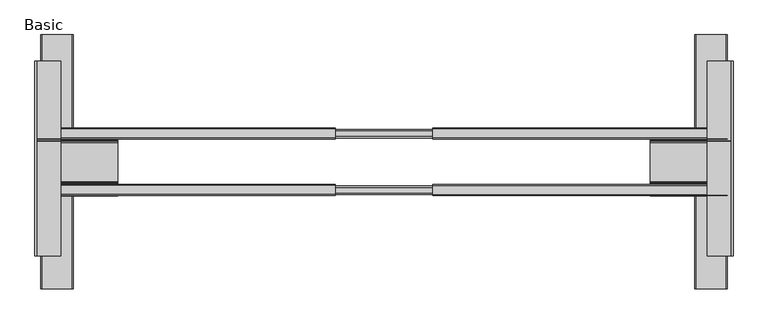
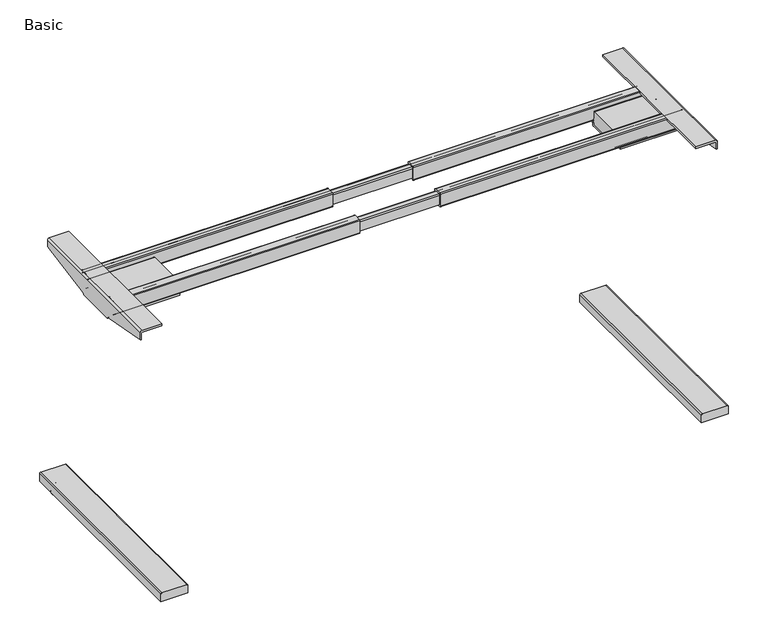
"""IFC4 building model written with IfcOpenShell, lengths in millimetres: furniture geometry, Steelcase Turnstone - Bivi - T Base : Basic."""

from ifc_helpers import new_model, si_unit, point, frame, frame_2d, origin, place, context, project, spatial, polyline, circle_curve, ellipse_curve, trimmed, segment, composite_curve, outline, extrude, source, transform, mapped, element, save
from ifc_brep_helpers import plane_surface, cylinder_surface, revolved_surface, advanced_brep


def basic_6e81f7dd(model_context):
    return source(origin(), model_context, "Body", "SolidModel", [
        advanced_brep(
        [(579.6197971, 171.9471628, 0.0), (579.6197971, 111.031484, 0.0), (579.6197971, 141.4893234, 0.0), (579.6197971, 173.9813657, 2.034203), (579.6197971, 108.997281, 2.034203), (579.6197971, 173.9813657, 5.0424709), (579.6197971, 108.997281, 5.0424709), (579.6197971, 171.9620755, 7.0617612), (579.6197971, 111.0165712, 7.0617612), (579.6197971, 149.0390808, 9.288914), (579.6197971, 133.9395659, 9.288914), (579.6197971, 141.4893234, 9.288914)],
        [
            (0, 1, circle_curve(frame((579.6197971, 141.4893234, 0.0), z_axis=(0.0, 0.0, -1.0), x_axis=(0.0, -1.0, 0.0)), 30.4578394)),
            (1, 2),
            (2, 0),
            (1, 0, circle_curve(frame((579.6197971, 141.4893234, 0.0), z_axis=(0.0, 0.0, -1.0), x_axis=(0.0, -1.0, 0.0)), 30.4578394)),
            (3, 4, circle_curve(frame((579.6197971, 141.4893234, 2.034203), z_axis=(0.0, 0.0, -1.0), x_axis=(0.0, -1.0, 0.0)), 32.4920424)),
            (4, 1, circle_curve(frame((579.6197971, 111.031484, 2.034203), z_axis=(1.0, 0.0, 0.0), x_axis=(0.0, 1.0, 0.0)), 2.034203)),
            (0, 3, circle_curve(frame((579.6197971, 171.9471628, 2.034203), z_axis=(1.0, 0.0, 0.0), x_axis=(0.0, -1.0, 0.0)), 2.034203)),
            (4, 3, circle_curve(frame((579.6197971, 141.4893234, 2.034203), z_axis=(0.0, 0.0, -1.0), x_axis=(0.0, -1.0, 0.0)), 32.4920424)),
            (5, 6, circle_curve(frame((579.6197971, 141.4893234, 5.0424709), z_axis=(0.0, 0.0, -1.0), x_axis=(0.0, -1.0, 0.0)), 32.4920424)),
            (6, 4),
            (3, 5),
            (6, 5, circle_curve(frame((579.6197971, 141.4893234, 5.0424709), z_axis=(0.0, 0.0, -1.0), x_axis=(0.0, -1.0, 0.0)), 32.4920424)),
            (7, 8, circle_curve(frame((579.6197971, 141.4893234, 7.0617612), z_axis=(0.0, 0.0, -1.0), x_axis=(0.0, -1.0, 0.0)), 30.4727521)),
            (8, 6, circle_curve(frame((579.6197971, 111.0165712, 5.0424709), z_axis=(1.0, 0.0, 0.0), x_axis=(0.0, 1.0, 0.0)), 2.0192902)),
            (5, 7, circle_curve(frame((579.6197971, 171.9620755, 5.0424709), z_axis=(1.0, 0.0, 0.0), x_axis=(0.0, -1.0, 0.0)), 2.0192902)),
            (8, 7, circle_curve(frame((579.6197971, 141.4893234, 7.0617612), z_axis=(0.0, 0.0, -1.0), x_axis=(0.0, -1.0, 0.0)), 30.4727521)),
            (9, 10, circle_curve(frame((579.6197971, 141.4893234, 9.288914), z_axis=(0.0, 0.0, -1.0), x_axis=(0.0, -1.0, 0.0)), 7.5497574)),
            (10, 8),
            (7, 9),
            (10, 9, circle_curve(frame((579.6197971, 141.4893234, 9.288914), z_axis=(0.0, 0.0, -1.0), x_axis=(0.0, -1.0, 0.0)), 7.5497574)),
            (11, 10),
            (9, 11),
        ],
        [
            plane_surface(frame((579.6197971, 141.4893234, 0.0), z_axis=(0.0, 0.0, -1.0), x_axis=(0.0, -1.0, 0.0))),
            revolved_surface(trimmed(ellipse_curve(frame((579.6197971, 111.031484, 2.034203), z_axis=(-1.0, 0.0, 0.0), x_axis=(0.0, 1.0, 0.0)), 2.034203, 2.034203), [point((579.6197971, 111.031484, 0.0))], [point((579.6197971, 108.997281, 2.034203))], True, "CARTESIAN"), (579.6197971, 141.4893234, 13.4607192), (0.0, 0.0, 1.0)),
            cylinder_surface(frame((579.6197971, 141.4893234, 13.4607192), z_axis=(0.0, 0.0, 1.0), x_axis=(0.0, -1.0, 0.0)), 32.4920424),
            revolved_surface(trimmed(ellipse_curve(frame((579.6197971, 111.0165712, 5.0424709), z_axis=(-1.0, 0.0, 0.0), x_axis=(0.0, 1.0, 0.0)), 2.0192902, 2.0192902), [point((579.6197971, 108.997281, 5.0424709))], [point((579.6197971, 111.0165712, 7.0617612))], True, "CARTESIAN"), (579.6197971, 141.4893234, 13.4607192), (0.0, 0.0, 1.0)),
            revolved_surface(polyline([(579.6197971, 111.0165712, 7.0617612), (579.6197971, 133.9395659, 9.288914)]), (579.6197971, 141.4893234, 13.4607192), (0.0, 0.0, 1.0)),
            plane_surface(frame((579.6197971, 141.4893234, 9.288914), z_axis=(0.0, 0.0, 1.0), x_axis=(0.0, -1.0, 0.0))),
        ],
        [
            (0, [[1, 2, 3]]),
            (0, [[4, -3, -2]]),
            (1, [[5, 6, -1, 7]]),
            (1, [[8, -7, -4, -6]]),
            (2, [[9, 10, -5, 11]]),
            (2, [[12, -11, -8, -10]]),
            (3, [[13, 14, -9, 15]]),
            (3, [[16, -15, -12, -14]]),
            (4, [[17, 18, -13, 19]]),
            (4, [[20, -19, -16, -18]]),
            (5, [[21, -17, 22]]),
            (5, [[-22, -20, -21]]),
        ],
    ),
        advanced_brep(
        [(-924.0602029, -367.0453334, 0.0), (-924.0602029, -306.1296546, 0.0), (-924.0602029, -336.587494, 0.0), (-924.0602029, -369.0795363, 2.034203), (-924.0602029, -304.0954516, 2.034203), (-924.0602029, -369.0795363, 5.0424709), (-924.0602029, -304.0954516, 5.0424709), (-924.0602029, -367.0602461, 7.0617612), (-924.0602029, -306.1147418, 7.0617612), (-924.0602029, -344.1372514, 9.288914), (-924.0602029, -329.0377365, 9.288914), (-924.0602029, -336.587494, 9.288914)],
        [
            (0, 1, circle_curve(frame((-924.0602029, -336.587494, 0.0), z_axis=(0.0, 0.0, -1.0), x_axis=(0.0, 1.0, 0.0)), 30.4578394)),
            (1, 2),
            (2, 0),
            (1, 0, circle_curve(frame((-924.0602029, -336.587494, 0.0), z_axis=(0.0, 0.0, -1.0), x_axis=(0.0, 1.0, 0.0)), 30.4578394)),
            (3, 4, circle_curve(frame((-924.0602029, -336.587494, 2.034203), z_axis=(0.0, 0.0, -1.0), x_axis=(0.0, 1.0, 0.0)), 32.4920424)),
            (4, 1, circle_curve(frame((-924.0602029, -306.1296546, 2.034203), z_axis=(-1.0, 0.0, 0.0), x_axis=(0.0, 1.0, 0.0)), 2.034203)),
            (0, 3, circle_curve(frame((-924.0602029, -367.0453334, 2.034203), z_axis=(-1.0, 0.0, 0.0), x_axis=(0.0, -1.0, 0.0)), 2.034203)),
            (4, 3, circle_curve(frame((-924.0602029, -336.587494, 2.034203), z_axis=(0.0, 0.0, -1.0), x_axis=(0.0, 1.0, 0.0)), 32.4920424)),
            (5, 6, circle_curve(frame((-924.0602029, -336.587494, 5.0424709), z_axis=(0.0, 0.0, -1.0), x_axis=(0.0, 1.0, 0.0)), 32.4920424)),
            (6, 4),
            (3, 5),
            (6, 5, circle_curve(frame((-924.0602029, -336.587494, 5.0424709), z_axis=(0.0, 0.0, -1.0), x_axis=(0.0, 1.0, 0.0)), 32.4920424)),
            (7, 8, circle_curve(frame((-924.0602029, -336.587494, 7.0617612), z_axis=(0.0, 0.0, -1.0), x_axis=(0.0, 1.0, 0.0)), 30.4727521)),
            (8, 6, circle_curve(frame((-924.0602029, -306.1147418, 5.0424709), z_axis=(-1.0, 0.0, 0.0), x_axis=(0.0, 1.0, 0.0)), 2.0192902)),
            (5, 7, circle_curve(frame((-924.0602029, -367.0602461, 5.0424709), z_axis=(-1.0, 0.0, 0.0), x_axis=(0.0, -1.0, 0.0)), 2.0192902)),
            (8, 7, circle_curve(frame((-924.0602029, -336.587494, 7.0617612), z_axis=(0.0, 0.0, -1.0), x_axis=(0.0, 1.0, 0.0)), 30.4727521)),
            (9, 10, circle_curve(frame((-924.0602029, -336.587494, 9.288914), z_axis=(0.0, 0.0, -1.0), x_axis=(0.0, 1.0, 0.0)), 7.5497574)),
            (10, 8),
            (7, 9),
            (10, 9, circle_curve(frame((-924.0602029, -336.587494, 9.288914), z_axis=(0.0, 0.0, -1.0), x_axis=(0.0, 1.0, 0.0)), 7.5497574)),
            (11, 10),
            (9, 11),
        ],
        [
            plane_surface(frame((-924.0602029, -336.587494, 0.0), z_axis=(0.0, 0.0, -1.0), x_axis=(0.0, 1.0, 0.0))),
            revolved_surface(trimmed(ellipse_curve(frame((-924.0602029, -306.1296546, 2.034203), z_axis=(1.0, 0.0, 0.0), x_axis=(0.0, 1.0, 0.0)), 2.034203, 2.034203), [point((-924.0602029, -306.1296546, 0.0))], [point((-924.0602029, -304.0954516, 2.034203))], True, "CARTESIAN"), (-924.0602029, -336.587494, 13.4607192), (0.0, 0.0, 1.0)),
            cylinder_surface(frame((-924.0602029, -336.587494, 13.4607192), z_axis=(0.0, 0.0, 1.0), x_axis=(0.0, 1.0, 0.0)), 32.4920424),
            revolved_surface(trimmed(ellipse_curve(frame((-924.0602029, -306.1147418, 5.0424709), z_axis=(1.0, 0.0, 0.0), x_axis=(0.0, 1.0, 0.0)), 2.0192902, 2.0192902), [point((-924.0602029, -304.0954516, 5.0424709))], [point((-924.0602029, -306.1147418, 7.0617612))], True, "CARTESIAN"), (-924.0602029, -336.587494, 13.4607192), (0.0, 0.0, 1.0)),
            revolved_surface(polyline([(-924.0602029, -306.1147418, 7.0617612), (-924.0602029, -329.0377365, 9.288914)]), (-924.0602029, -336.587494, 13.4607192), (0.0, 0.0, 1.0)),
            plane_surface(frame((-924.0602029, -336.587494, 9.288914), z_axis=(0.0, 0.0, 1.0), x_axis=(0.0, 1.0, 0.0))),
        ],
        [
            (0, [[1, 2, 3]]),
            (0, [[4, -3, -2]]),
            (1, [[5, 6, -1, 7]]),
            (1, [[8, -7, -4, -6]]),
            (2, [[9, 10, -5, 11]]),
            (2, [[12, -11, -8, -10]]),
            (3, [[13, 14, -9, 15]]),
            (3, [[16, -15, -12, -14]]),
            (4, [[17, 18, -13, 19]]),
            (4, [[20, -19, -16, -18]]),
            (5, [[21, -17, 22]]),
            (5, [[-22, -20, -21]]),
        ],
    ),
        advanced_brep(
        [(626.8774973, -158.2325705, 706.7459466), (629.3911807, -158.2325705, 706.7459466), (629.3911807, -313.1690409, 735.4690634), (626.8774973, -313.1690409, 735.4690634), (626.8774973, -154.5901123, 703.1034885), (629.3911807, -154.5901123, 703.1034885), (626.8774973, -37.2242924, 706.7459466), (629.3911807, -37.2242924, 706.7459466), (629.3911807, -40.8667505, 703.1034885), (626.8774973, -40.8667505, 703.1034885), (626.8774973, 133.8680014, 738.4641336), (629.3911807, 133.8680014, 738.4641336), (629.3911807, -313.1690409, 757.1424174), (624.1335981, -313.1690409, 762.4), (569.7244146, -313.1690409, 762.4), (569.7244146, -313.1690409, 756.3136941), (624.1335981, -313.1690409, 756.3136941), (626.8774973, -313.1690409, 753.5697948), (626.8774973, 133.8680014, 753.5697948), (624.1335981, 133.8680014, 756.3136941), (569.7244146, 133.8680014, 756.3136941), (569.7244146, 133.8680014, 762.4), (624.1335981, 133.8680014, 762.4), (629.3911807, 133.8680014, 757.1424174)],
        [
            (0, 1),
            (1, 2),
            (2, 3),
            (3, 0),
            (0, 4),
            (4, 5),
            (5, 1),
            (6, 7),
            (7, 8),
            (8, 9),
            (9, 6),
            (6, 10),
            (10, 11),
            (11, 7),
            (12, 13, circle_curve(frame((624.1335981, -313.1690409, 757.1424174), z_axis=(0.0, -1.0, 0.0), x_axis=(-1.0, 0.0, 0.0)), 5.2575826)),
            (13, 14),
            (14, 15),
            (15, 16),
            (16, 17, circle_curve(frame((624.1335981, -313.1690409, 753.5697948), z_axis=(0.0, 1.0, 0.0), x_axis=(-1.0, 0.0, 0.0)), 2.7438992)),
            (17, 3),
            (2, 12),
            (18, 19, circle_curve(frame((624.1335981, 133.8680014, 753.5697948), z_axis=(0.0, -1.0, 0.0), x_axis=(-1.0, 0.0, 0.0)), 2.7438992)),
            (19, 20),
            (20, 21),
            (21, 22),
            (22, 23, circle_curve(frame((624.1335981, 133.8680014, 757.1424174), z_axis=(0.0, 1.0, 0.0), x_axis=(-1.0, 0.0, 0.0)), 5.2575826)),
            (23, 11),
            (10, 18),
            (17, 18),
            (9, 4),
            (16, 19),
            (15, 20),
            (14, 21),
            (13, 22),
            (12, 23),
            (5, 8),
        ],
        [
            plane_surface(frame((907.5476074, -158.2325705, 706.7459466), z_axis=(0.0, -0.18228055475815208, -0.983246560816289), x_axis=(-1.0, 0.0, 0.0))),
            plane_surface(frame((907.5476074, -152.8866238, 701.4), z_axis=(0.0, -0.7071067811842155, -0.7071067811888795), x_axis=(-1.0, 0.0, 0.0))),
            plane_surface(frame((907.5476074, -37.2242924, 706.7459466), z_axis=(0.0, 0.707106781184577, -0.7071067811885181), x_axis=(-1.0, 0.0, 0.0))),
            plane_surface(frame((907.5476074, 190.3320215, 748.9317958), z_axis=(0.0, 0.18228055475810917, -0.983246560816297), x_axis=(-1.0, 0.0, 0.0))),
            plane_surface(frame((629.3911807, -313.1690409, 703.1034885), z_axis=(0.0, -1.0, 0.0), x_axis=(1.0, 0.0, 0.0))),
            plane_surface(frame((629.3911807, 133.8680014, 703.1034885), z_axis=(0.0, 1.0, 0.0), x_axis=(-1.0, 0.0, 0.0))),
            plane_surface(frame((626.8774973, -313.1690409, 753.5697948), z_axis=(-1.0, 0.0, 0.0), x_axis=(0.0, 1.0, 0.0))),
            revolved_surface(polyline([(621.3896989, 133.8680014, 753.5697948), (621.3896989, -313.1690409, 753.5697948)]), (624.1335981, 133.8680014, 753.5697948), (0.0, 1.0, 0.0)),
            plane_surface(frame((569.7244146, -313.1690409, 756.3136941), z_axis=(1.7091088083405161e-12, 0.0, -1.0), x_axis=(0.0, 1.0, 0.0))),
            plane_surface(frame((569.7244146, -313.1690409, 762.4), z_axis=(-1.0, 0.0, 0.0), x_axis=(0.0, 1.0, 0.0))),
            plane_surface(frame((624.1335981, -313.1690409, 762.4), z_axis=(0.0, 0.0, 1.0), x_axis=(0.0, 1.0, 0.0))),
            cylinder_surface(frame((624.1335981, 133.8680014, 757.1424174), z_axis=(0.0, -1.0, 0.0), x_axis=(-1.0, 0.0, 0.0)), 5.2575826),
            plane_surface(frame((629.3911807, -313.1690409, 703.1034885), z_axis=(1.0, 0.0, 0.0), x_axis=(0.0, 1.0, 0.0))),
            plane_surface(frame((626.8774973, -313.1690409, 703.1034885), z_axis=(0.0, 0.0, -1.0), x_axis=(0.0, 1.0, 0.0))),
        ],
        [
            (0, [[1, 2, 3, 4]]),
            (1, [[-1, 5, 6, 7]]),
            (2, [[8, 9, 10, 11]]),
            (3, [[-8, 12, 13, 14]]),
            (4, [[15, 16, 17, 18, 19, 20, -3, 21]]),
            (5, [[22, 23, 24, 25, 26, 27, -13, 28]]),
            (6, [[29, -28, -12, -11, 30, -5, -4, -20]]),
            (7, [[-19, 31, -22, -29]]),
            (8, [[-18, 32, -23, -31]]),
            (9, [[-17, 33, -24, -32]]),
            (10, [[-16, 34, -25, -33]]),
            (11, [[-15, 35, -26, -34]]),
            (12, [[-35, -21, -2, -7, 36, -9, -14, -27]]),
            (13, [[-36, -6, -30, -10]]),
        ],
    ),
        advanced_brep(
        [(-971.2731206, -313.1690409, 753.5697948), (-968.5292213, -313.1690409, 756.3136941), (-913.8919689, -313.1690409, 756.3136941), (-913.8919689, -313.1690409, 762.4), (-968.3145206, -313.1690409, 762.4), (-973.5721032, -313.1690409, 757.1424174), (-973.5721032, -313.1690409, 735.4690634), (-971.2731206, -313.1690409, 735.4690634), (-973.5721032, 133.8680014, 757.1424174), (-968.3145206, 133.8680014, 762.4), (-913.8919689, 133.8680014, 762.4), (-913.8919689, 133.8680014, 756.3136941), (-968.5292213, 133.8680014, 756.3136941), (-971.2731206, 133.8680014, 753.5697948), (-971.2731206, 133.8680014, 738.4641336), (-973.5721032, 133.8680014, 738.4641336), (-971.2731206, -158.2325705, 706.7459466), (-971.2731206, -154.5901123, 703.1034885), (-971.2731206, -40.8667505, 703.1034885), (-971.2731206, -37.2242924, 706.7459466), (-973.5721032, -37.2242924, 706.7459466), (-973.5721032, -40.8667505, 703.1034885), (-973.5721032, -154.5901123, 703.1034885), (-973.5721032, -158.2325705, 706.7459466)],
        [
            (0, 1, circle_curve(frame((-968.5292213, -313.1690409, 753.5697948), z_axis=(0.0, 1.0, 0.0), x_axis=(1.0, 0.0, 0.0)), 2.7438992)),
            (1, 2),
            (2, 3),
            (3, 4),
            (4, 5, circle_curve(frame((-968.3145206, -313.1690409, 757.1424174), z_axis=(0.0, -1.0, 0.0), x_axis=(1.0, 0.0, 0.0)), 5.2575826)),
            (5, 6),
            (6, 7),
            (7, 0),
            (8, 9, circle_curve(frame((-968.3145206, 133.8680014, 757.1424174), z_axis=(0.0, 1.0, 0.0), x_axis=(1.0, 0.0, 0.0)), 5.2575826)),
            (9, 10),
            (10, 11),
            (11, 12),
            (12, 13, circle_curve(frame((-968.5292213, 133.8680014, 753.5697948), z_axis=(0.0, -1.0, 0.0), x_axis=(1.0, 0.0, 0.0)), 2.7438992)),
            (13, 14),
            (14, 15),
            (15, 8),
            (13, 0),
            (7, 16),
            (16, 17),
            (17, 18),
            (18, 19),
            (19, 14),
            (12, 1),
            (11, 2),
            (10, 3),
            (9, 4),
            (8, 5),
            (15, 20),
            (20, 21),
            (21, 22),
            (22, 23),
            (23, 6),
            (17, 22),
            (21, 18),
            (23, 16),
            (20, 19),
        ],
        [
            plane_surface(frame((-971.2731206, -313.1690409, 753.5697948), z_axis=(0.0, -1.0, 0.0), x_axis=(0.0, 0.0, 1.0))),
            plane_surface(frame((-971.2731206, 133.8680014, 753.5697948), z_axis=(0.0, 1.0, 0.0), x_axis=(0.0, 0.0, -1.0))),
            plane_surface(frame((-971.2731206, -313.1690409, 703.1034885), z_axis=(1.0, 0.0, 0.0), x_axis=(0.0, 1.0, 0.0))),
            revolved_surface(polyline([(-965.7853221, 133.8680014, 753.5697948), (-965.7853221, -313.1690409, 753.5697948)]), (-968.5292213, 133.8680014, 753.5697948), (0.0, 1.0, 0.0)),
            plane_surface(frame((-968.5292213, -313.1690409, 756.3136941), z_axis=(0.0, 0.0, -1.0), x_axis=(0.0, 1.0, 0.0))),
            plane_surface(frame((-913.8919689, -313.1690409, 756.3136941), z_axis=(1.0, 0.0, 0.0), x_axis=(0.0, 1.0, 0.0))),
            plane_surface(frame((-913.8919689, -313.1690409, 762.4), z_axis=(0.0, 0.0, 1.0), x_axis=(0.0, 1.0, 0.0))),
            cylinder_surface(frame((-968.3145206, 133.8680014, 757.1424174), z_axis=(0.0, -1.0, 0.0), x_axis=(1.0, 0.0, 0.0)), 5.2575826),
            plane_surface(frame((-973.5721032, -313.1690409, 757.1424174), z_axis=(-1.0, 0.0, 0.0), x_axis=(0.0, 1.0, 0.0))),
            plane_surface(frame((-973.5721032, -313.1690409, 703.1034885), z_axis=(0.0, 0.0, -1.0), x_axis=(0.0, 1.0, 0.0))),
            plane_surface(frame((-1059.695801, -385.7888843, 748.9317958), z_axis=(0.0, -0.18228055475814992, -0.9832465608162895), x_axis=(1.0, 0.0, 0.0))),
            plane_surface(frame((-1059.695801, -158.2325705, 706.7459466), z_axis=(0.0, -0.7071067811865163, -0.7071067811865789), x_axis=(1.0, 0.0, 0.0))),
            plane_surface(frame((-1059.695801, -42.570239, 701.4), z_axis=(0.0, 0.7071067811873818, -0.7071067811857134), x_axis=(1.0, 0.0, 0.0))),
            plane_surface(frame((-1059.695801, -37.2242924, 706.7459466), z_axis=(0.0, 0.1822805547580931, -0.9832465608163), x_axis=(1.0, 0.0, 0.0))),
        ],
        [
            (0, [[1, 2, 3, 4, 5, 6, 7, 8]]),
            (1, [[9, 10, 11, 12, 13, 14, 15, 16]]),
            (2, [[17, -8, 18, 19, 20, 21, 22, -14]]),
            (3, [[-1, -17, -13, 23]]),
            (4, [[-2, -23, -12, 24]]),
            (5, [[-3, -24, -11, 25]]),
            (6, [[-4, -25, -10, 26]]),
            (7, [[-5, -26, -9, 27]]),
            (8, [[-27, -16, 28, 29, 30, 31, 32, -6]]),
            (9, [[-20, 33, -30, 34]]),
            (10, [[35, -18, -7, -32]]),
            (11, [[-35, -31, -33, -19]]),
            (12, [[36, -21, -34, -29]]),
            (13, [[-36, -28, -15, -22]]),
        ],
    ),
        extrude(outline(composite_curve([segment(polyline([(7.9650038, 541.2137802), (7.9650038, 616.2881849), (30.0204767, 616.2881849)]), True, "CONTINUOUS"), segment(trimmed(circle_curve(frame_2d((30.0204767, 613.3075777)), 2.9806072), [point((30.0204767, 616.2881849))], [point((33.0010839, 613.3075777))], False, "CARTESIAN"), True, "CONTINUOUS"), segment(polyline([(33.0010839, 613.3075777), (33.0010839, 544.3842027)]), True, "CONTINUOUS"), segment(trimmed(circle_curve(frame_2d((29.8306613, 544.3842027)), 3.1704226), [point((33.0010839, 544.3842027))], [point((29.8306613, 541.2137802))], False, "CARTESIAN"), True, "CONTINUOUS"), segment(polyline([(29.8306613, 541.2137802), (7.9650038, 541.2137802)]), True, "CONTINUOUS")], self_intersect=False)), frame((0.0, -389.6490853, 0.0), z_axis=(0.0, 1.0, 0.0), x_axis=(0.0, 0.0, 1.0)), (0.0, 0.0, 1.0), 584.2),
        extrude(outline(composite_curve([segment(polyline([(7.9650038, -885.654186), (29.8306613, -885.654186)]), True, "CONTINUOUS"), segment(trimmed(circle_curve(frame_2d((29.8306613, -888.8246086)), 3.1704226), [point((29.8306613, -885.654186))], [point((33.0010839, -888.8246086))], False, "CARTESIAN"), True, "CONTINUOUS"), segment(polyline([(33.0010839, -888.8246086), (33.0010839, -957.7479836)]), True, "CONTINUOUS"), segment(trimmed(circle_curve(frame_2d((30.0204767, -957.7479836)), 2.9806072), [point((33.0010839, -957.7479836))], [point((30.0204767, -960.7285908))], False, "CARTESIAN"), True, "CONTINUOUS"), segment(polyline([(30.0204767, -960.7285908), (7.9650038, -960.7285908), (7.9650038, -885.654186)]), True, "CONTINUOUS")], self_intersect=False)), frame((0.0, -389.6490853, 0.0), z_axis=(0.0, 1.0, 0.0), x_axis=(0.0, 0.0, 1.0)), (0.0, 0.0, 1.0), 584.2),
        extrude(outline(composite_curve([segment(trimmed(circle_curve(frame_2d((-22.6846088, 724.4247064)), 2.54), [point((-20.1446088, 724.4247064))], [point((-22.6846088, 721.8847064))], False, "CARTESIAN"), True, "CONTINUOUS"), segment(polyline([(-22.6846088, 721.8847064), (-43.0735084, 721.8847064)]), True, "CONTINUOUS"), segment(trimmed(circle_curve(frame_2d((-43.0735084, 724.3558068)), 2.4711004), [point((-43.0735084, 721.8847064))], [point((-45.5446088, 724.3558068))], False, "CARTESIAN"), True, "CONTINUOUS"), segment(polyline([(-45.5446088, 724.3558068), (-45.5446088, 759.897389)]), True, "CONTINUOUS"), segment(trimmed(circle_curve(frame_2d((-43.0419978, 759.897389)), 2.502611), [point((-45.5446088, 759.897389))], [point((-43.0419978, 762.4))], False, "CARTESIAN"), True, "CONTINUOUS"), segment(polyline([(-43.0419978, 762.4), (-22.5036523, 762.4)]), True, "CONTINUOUS"), segment(trimmed(circle_curve(frame_2d((-22.5036523, 760.0409564)), 2.3590436), [point((-22.5036523, 762.4))], [point((-20.1446088, 760.0409564))], False, "CARTESIAN"), True, "CONTINUOUS"), segment(polyline([(-20.1446088, 760.0409564), (-20.1446088, 724.4247064)]), True, "CONTINUOUS")], self_intersect=False)), frame((-60.4602029, 0.0, 0.0), z_axis=(1.0, 0.0, 0.0), x_axis=(0.0, 1.0, 0.0)), (0.0, 0.0, 1.0), 676.7483879),
        extrude(outline(composite_curve([segment(polyline([(-175.0303912, 724.4247064), (-175.0303912, 760.0409564)]), True, "CONTINUOUS"), segment(trimmed(circle_curve(frame_2d((-172.6713476, 760.0409564)), 2.3590436), [point((-175.0303912, 760.0409564))], [point((-172.6713476, 762.4))], False, "CARTESIAN"), True, "CONTINUOUS"), segment(polyline([(-172.6713476, 762.4), (-152.1330021, 762.4)]), True, "CONTINUOUS"), segment(trimmed(circle_curve(frame_2d((-152.1330021, 759.897389)), 2.502611), [point((-152.1330021, 762.4))], [point((-149.6303912, 759.897389))], False, "CARTESIAN"), True, "CONTINUOUS"), segment(polyline([(-149.6303912, 759.897389), (-149.6303912, 724.3558068)]), True, "CONTINUOUS"), segment(trimmed(circle_curve(frame_2d((-152.1014916, 724.3558068)), 2.4711004), [point((-149.6303912, 724.3558068))], [point((-152.1014916, 721.8847064))], False, "CARTESIAN"), True, "CONTINUOUS"), segment(polyline([(-152.1014916, 721.8847064), (-172.4903912, 721.8847064)]), True, "CONTINUOUS"), segment(trimmed(circle_curve(frame_2d((-172.4903912, 724.4247064)), 2.54), [point((-172.4903912, 721.8847064))], [point((-175.0303912, 724.4247064))], False, "CARTESIAN"), True, "CONTINUOUS")], self_intersect=False)), frame((-60.4602029, 0.0, 0.0), z_axis=(1.0, 0.0, 0.0), x_axis=(0.0, 1.0, 0.0)), (0.0, 0.0, 1.0), 676.7483879),
        extrude(outline(composite_curve([segment(polyline([(-41.1510404, 716.7696117), (-42.2051171, 711.022656)]), True, "CONTINUOUS"), segment(trimmed(circle_curve(frame_2d((-47.3092607, 711.9588315)), 5.1892877), [point((-42.2051171, 711.022656))], [point((-47.3092607, 706.7695438))], False, "CARTESIAN"), True, "CONTINUOUS"), segment(polyline([(-47.3092607, 706.7695438), (-148.1476021, 706.7695438)]), True, "CONTINUOUS"), segment(trimmed(circle_curve(frame_2d((-148.1476021, 711.9588315)), 5.1892877), [point((-148.1476021, 706.7695438))], [point((-153.2517457, 711.022656))], False, "CARTESIAN"), True, "CONTINUOUS"), segment(polyline([(-153.2517457, 711.022656), (-154.3058224, 716.7696117), (-175.3056356, 716.7696117), (-175.3056356, 721.8847064), (-154.8075486, 721.8847064)]), True, "CONTINUOUS"), segment(trimmed(circle_curve(frame_2d((-154.8075486, 716.3079909)), 5.5767155), [point((-154.8075486, 721.8847064))], [point((-149.3222025, 717.3133434))], False, "CARTESIAN"), True, "CONTINUOUS"), segment(polyline([(-149.3222025, 717.3133434), (-148.3061517, 711.7696262), (-47.7075617, 711.7696262), (-46.6915109, 717.3133434)]), True, "CONTINUOUS"), segment(trimmed(circle_curve(frame_2d((-41.2061648, 716.3079909)), 5.5767155), [point((-46.6915109, 717.3133434))], [point((-41.2061648, 721.8847064))], False, "CARTESIAN"), True, "CONTINUOUS"), segment(polyline([(-41.2061648, 721.8847064), (-20.3067633, 721.8847064), (-20.3067633, 716.7696117), (-41.1510404, 716.7696117)]), True, "CONTINUOUS")], self_intersect=False)), frame((439.5031648, 0.0, 0.0), z_axis=(1.0, 0.0, 0.0), x_axis=(0.0, 1.0, 0.0)), (0.0, 0.0, 1.0), 184.6304333),
        extrude(outline(composite_curve([segment(polyline([(-49.146017, 750.0927128), (-47.8070711, 711.7696262), (-147.8056669, 711.7696262), (-146.4667677, 750.0927082)]), True, "CONTINUOUS"), segment(trimmed(circle_curve(frame_2d((-142.6590908, 749.9596788)), 3.81), [point((-146.4667677, 750.0927082))], [point((-142.6590908, 753.7696788))], False, "CARTESIAN"), True, "CONTINUOUS"), segment(polyline([(-142.6590908, 753.7696788), (-52.9536937, 753.7696788)]), True, "CONTINUOUS"), segment(trimmed(circle_curve(frame_2d((-52.9536937, 749.9596788)), 3.81), [point((-52.9536937, 753.7696788))], [point((-49.146017, 750.0927128))], False, "CARTESIAN"), True, "CONTINUOUS")], self_intersect=False)), frame((439.5031648, 0.0, 0.0), z_axis=(1.0, 0.0, 0.0), x_axis=(0.0, 1.0, 0.0)), (0.0, 0.0, 1.0), 184.6304333),
        extrude(outline(composite_curve([segment(polyline([(-49.146017, 750.0927128), (-47.8070711, 711.7696262), (-147.8056669, 711.7696262), (-146.4667677, 750.0927082)]), True, "CONTINUOUS"), segment(trimmed(circle_curve(frame_2d((-142.6590908, 749.9596788)), 3.81), [point((-146.4667677, 750.0927082))], [point((-142.6590908, 753.7696788))], False, "CARTESIAN"), True, "CONTINUOUS"), segment(polyline([(-142.6590908, 753.7696788), (-52.9536937, 753.7696788)]), True, "CONTINUOUS"), segment(trimmed(circle_curve(frame_2d((-52.9536937, 749.9596788)), 3.81), [point((-52.9536937, 753.7696788))], [point((-49.146017, 750.0927128))], False, "CARTESIAN"), True, "CONTINUOUS")], self_intersect=False)), frame((-968.574004, 0.0, 0.0), z_axis=(1.0, 0.0, 0.0), x_axis=(0.0, 1.0, 0.0)), (0.0, 0.0, 1.0), 184.6304333),
        extrude(outline(composite_curve([segment(trimmed(circle_curve(frame_2d((-22.6461941, 724.4247064)), 2.54), [point((-20.1061941, 724.4247064))], [point((-22.6461941, 721.8847064))], False, "CARTESIAN"), True, "CONTINUOUS"), segment(polyline([(-22.6461941, 721.8847064), (-43.0350937, 721.8847064)]), True, "CONTINUOUS"), segment(trimmed(circle_curve(frame_2d((-43.0350937, 724.3558068)), 2.4711004), [point((-43.0350937, 721.8847064))], [point((-45.5061941, 724.3558068))], False, "CARTESIAN"), True, "CONTINUOUS"), segment(polyline([(-45.5061941, 724.3558068), (-45.5061941, 759.897389)]), True, "CONTINUOUS"), segment(trimmed(circle_curve(frame_2d((-43.0035831, 759.897389)), 2.502611), [point((-45.5061941, 759.897389))], [point((-43.0035831, 762.4))], False, "CARTESIAN"), True, "CONTINUOUS"), segment(polyline([(-43.0035831, 762.4), (-22.4652377, 762.4)]), True, "CONTINUOUS"), segment(trimmed(circle_curve(frame_2d((-22.4652377, 760.0409564)), 2.3590436), [point((-22.4652377, 762.4))], [point((-20.1061941, 760.0409564))], False, "CARTESIAN"), True, "CONTINUOUS"), segment(polyline([(-20.1061941, 760.0409564), (-20.1061941, 724.4247064)]), True, "CONTINUOUS")], self_intersect=False)), frame((-968.574004, 0.0, 0.0), z_axis=(1.0, 0.0, 0.0), x_axis=(0.0, 1.0, 0.0)), (0.0, 0.0, 1.0), 684.593801),
        extrude(outline(composite_curve([segment(polyline([(-174.9919765, 724.4247064), (-174.9919765, 760.0409564)]), True, "CONTINUOUS"), segment(trimmed(circle_curve(frame_2d((-172.6329329, 760.0409564)), 2.3590436), [point((-174.9919765, 760.0409564))], [point((-172.6329329, 762.4))], False, "CARTESIAN"), True, "CONTINUOUS"), segment(polyline([(-172.6329329, 762.4), (-152.0945875, 762.4)]), True, "CONTINUOUS"), segment(trimmed(circle_curve(frame_2d((-152.0945875, 759.897389)), 2.502611), [point((-152.0945875, 762.4))], [point((-149.5919765, 759.897389))], False, "CARTESIAN"), True, "CONTINUOUS"), segment(polyline([(-149.5919765, 759.897389), (-149.5919765, 724.3558068)]), True, "CONTINUOUS"), segment(trimmed(circle_curve(frame_2d((-152.0630769, 724.3558068)), 2.4711004), [point((-149.5919765, 724.3558068))], [point((-152.0630769, 721.8847064))], False, "CARTESIAN"), True, "CONTINUOUS"), segment(polyline([(-152.0630769, 721.8847064), (-172.4519765, 721.8847064)]), True, "CONTINUOUS"), segment(trimmed(circle_curve(frame_2d((-172.4519765, 724.4247064)), 2.54), [point((-172.4519765, 721.8847064))], [point((-174.9919765, 724.4247064))], False, "CARTESIAN"), True, "CONTINUOUS")], self_intersect=False)), frame((-968.574004, 0.0, 0.0), z_axis=(1.0, 0.0, 0.0), x_axis=(0.0, 1.0, 0.0)), (0.0, 0.0, 1.0), 684.593801),
        extrude(outline(composite_curve([segment(polyline([(-25.1062849, 727.2695037), (-25.1062849, 755.3113189)]), True, "CONTINUOUS"), segment(trimmed(circle_curve(frame_2d((-25.6644682, 755.3113189)), 0.5581833), [point((-25.1062849, 755.3113189))], [point((-25.6644682, 755.8695022))], True, "CARTESIAN"), True, "CONTINUOUS"), segment(polyline([(-25.6644682, 755.8695022), (-39.9437245, 755.8695022)]), True, "CONTINUOUS"), segment(trimmed(circle_curve(frame_2d((-39.9437245, 755.3073353)), 0.5621669), [point((-39.9437245, 755.8695022))], [point((-40.5058914, 755.3073353))], True, "CARTESIAN"), True, "CONTINUOUS"), segment(polyline([(-40.5058914, 755.3073353), (-40.5058914, 727.2695037), (-42.5060407, 727.2695037), (-42.5060407, 754.6257358)]), True, "CONTINUOUS"), segment(trimmed(circle_curve(frame_2d((-39.2622994, 754.6257358)), 3.2437412), [point((-42.5060407, 754.6257358))], [point((-39.2622994, 757.869477))], False, "CARTESIAN"), True, "CONTINUOUS"), segment(polyline([(-39.2622994, 757.869477), (-26.0748444, 757.869477)]), True, "CONTINUOUS"), segment(trimmed(circle_curve(frame_2d((-26.0748444, 754.9010338)), 2.9684433), [point((-26.0748444, 757.869477))], [point((-23.1064012, 754.9010338))], False, "CARTESIAN"), True, "CONTINUOUS"), segment(polyline([(-23.1064012, 754.9010338), (-23.1064012, 727.2695037), (-25.1062849, 727.2695037)]), True, "CONTINUOUS")], self_intersect=False)), frame((-968.574004, 0.0, 0.0), z_axis=(1.0, 0.0, 0.0), x_axis=(0.0, 1.0, 0.0)), (0.0, 0.0, 1.0), 1592.7076021),
        extrude(outline(composite_curve([segment(polyline([(-169.9918857, 727.2695037), (-171.9917694, 727.2695037), (-171.9917694, 754.9010338)]), True, "CONTINUOUS"), segment(trimmed(circle_curve(frame_2d((-169.0233262, 754.9010338)), 2.9684433), [point((-171.9917694, 754.9010338))], [point((-169.0233262, 757.869477))], False, "CARTESIAN"), True, "CONTINUOUS"), segment(polyline([(-169.0233262, 757.869477), (-155.8358712, 757.869477)]), True, "CONTINUOUS"), segment(trimmed(circle_curve(frame_2d((-155.8358712, 754.6257358)), 3.2437412), [point((-155.8358712, 757.869477))], [point((-152.5921299, 754.6257358))], False, "CARTESIAN"), True, "CONTINUOUS"), segment(polyline([(-152.5921299, 754.6257358), (-152.5921299, 727.2695037), (-154.5922792, 727.2695037), (-154.5922792, 755.3073353)]), True, "CONTINUOUS"), segment(trimmed(circle_curve(frame_2d((-155.1544461, 755.3073353)), 0.5621669), [point((-154.5922792, 755.3073353))], [point((-155.1544461, 755.8695022))], True, "CARTESIAN"), True, "CONTINUOUS"), segment(polyline([(-155.1544461, 755.8695022), (-169.4337024, 755.8695022)]), True, "CONTINUOUS"), segment(trimmed(circle_curve(frame_2d((-169.4337024, 755.3113189)), 0.5581833), [point((-169.4337024, 755.8695022))], [point((-169.9918857, 755.3113189))], True, "CARTESIAN"), True, "CONTINUOUS"), segment(polyline([(-169.9918857, 755.3113189), (-169.9918857, 727.2695037)]), True, "CONTINUOUS")], self_intersect=False)), frame((-968.574004, 0.0, 0.0), z_axis=(1.0, 0.0, 0.0), x_axis=(0.0, 1.0, 0.0)), (0.0, 0.0, 1.0), 1592.7076021),
        advanced_brep(
        [(-924.0602029, 141.4893234, 0.0), (-924.0602029, 111.031484, 0.0), (-924.0602029, 171.9471628, 0.0), (-924.0602029, 108.997281, 2.034203), (-924.0602029, 173.9813657, 2.034203), (-924.0602029, 108.997281, 5.0424709), (-924.0602029, 173.9813657, 5.0424709), (-924.0602029, 111.0165712, 7.0617612), (-924.0602029, 171.9620755, 7.0617612), (-924.0602029, 133.9395659, 9.288914), (-924.0602029, 149.0390808, 9.288914), (-924.0602029, 141.4893234, 9.288914)],
        [
            (0, 1),
            (1, 2, circle_curve(frame((-924.0602029, 141.4893234, 0.0), z_axis=(0.0, 0.0, -1.0), x_axis=(0.0, -1.0, 0.0)), 30.4578394)),
            (2, 0),
            (2, 1, circle_curve(frame((-924.0602029, 141.4893234, 0.0), z_axis=(0.0, 0.0, -1.0), x_axis=(0.0, -1.0, 0.0)), 30.4578394)),
            (1, 3, circle_curve(frame((-924.0602029, 111.031484, 2.034203), z_axis=(-1.0, 0.0, 0.0), x_axis=(0.0, -1.0, 0.0)), 2.034203)),
            (3, 4, circle_curve(frame((-924.0602029, 141.4893234, 2.034203), z_axis=(0.0, 0.0, -1.0), x_axis=(0.0, -1.0, 0.0)), 32.4920424)),
            (4, 2, circle_curve(frame((-924.0602029, 171.9471628, 2.034203), z_axis=(-1.0, 0.0, 0.0), x_axis=(0.0, 1.0, 0.0)), 2.034203)),
            (4, 3, circle_curve(frame((-924.0602029, 141.4893234, 2.034203), z_axis=(0.0, 0.0, -1.0), x_axis=(0.0, -1.0, 0.0)), 32.4920424)),
            (3, 5),
            (5, 6, circle_curve(frame((-924.0602029, 141.4893234, 5.0424709), z_axis=(0.0, 0.0, -1.0), x_axis=(0.0, -1.0, 0.0)), 32.4920424)),
            (6, 4),
            (6, 5, circle_curve(frame((-924.0602029, 141.4893234, 5.0424709), z_axis=(0.0, 0.0, -1.0), x_axis=(0.0, -1.0, 0.0)), 32.4920424)),
            (5, 7, circle_curve(frame((-924.0602029, 111.0165712, 5.0424709), z_axis=(-1.0, 0.0, 0.0), x_axis=(0.0, -1.0, 0.0)), 2.0192902)),
            (7, 8, circle_curve(frame((-924.0602029, 141.4893234, 7.0617612), z_axis=(0.0, 0.0, -1.0), x_axis=(0.0, -1.0, 0.0)), 30.4727521)),
            (8, 6, circle_curve(frame((-924.0602029, 171.9620755, 5.0424709), z_axis=(-1.0, 0.0, 0.0), x_axis=(0.0, 1.0, 0.0)), 2.0192902)),
            (8, 7, circle_curve(frame((-924.0602029, 141.4893234, 7.0617612), z_axis=(0.0, 0.0, -1.0), x_axis=(0.0, -1.0, 0.0)), 30.4727521)),
            (7, 9),
            (9, 10, circle_curve(frame((-924.0602029, 141.4893234, 9.288914), z_axis=(0.0, 0.0, -1.0), x_axis=(0.0, -1.0, 0.0)), 7.5497574)),
            (10, 8),
            (10, 9, circle_curve(frame((-924.0602029, 141.4893234, 9.288914), z_axis=(0.0, 0.0, -1.0), x_axis=(0.0, -1.0, 0.0)), 7.5497574)),
            (9, 11),
            (11, 10),
        ],
        [
            plane_surface(frame((-924.0602029, 141.4893234, 0.0), z_axis=(0.0, 0.0, -1.0), x_axis=(0.0, -1.0, 0.0))),
            revolved_surface(trimmed(ellipse_curve(frame((-924.0602029, 111.031484, 2.034203), z_axis=(1.0, 0.0, 0.0), x_axis=(0.0, -1.0, 0.0)), 2.034203, 2.034203), [point((-924.0602029, 108.997281, 2.034203))], [point((-924.0602029, 111.031484, 0.0))], True, "CARTESIAN"), (-924.0602029, 141.4893234, 13.4607192), (0.0, 0.0, -1.0)),
            cylinder_surface(frame((-924.0602029, 141.4893234, 13.4607192), z_axis=(0.0, 0.0, -1.0), x_axis=(0.0, -1.0, 0.0)), 32.4920424),
            revolved_surface(trimmed(ellipse_curve(frame((-924.0602029, 111.0165712, 5.0424709), z_axis=(1.0, 0.0, 0.0), x_axis=(0.0, -1.0, 0.0)), 2.0192902, 2.0192902), [point((-924.0602029, 111.0165712, 7.0617612))], [point((-924.0602029, 108.997281, 5.0424709))], True, "CARTESIAN"), (-924.0602029, 141.4893234, 13.4607192), (0.0, 0.0, -1.0)),
            revolved_surface(polyline([(-924.0602029, 133.9395659, 9.288914), (-924.0602029, 111.0165712, 7.0617612)]), (-924.0602029, 141.4893234, 13.4607192), (0.0, 0.0, -1.0)),
            plane_surface(frame((-924.0602029, 141.4893234, 9.288914), z_axis=(0.0, 0.0, 1.0), x_axis=(0.0, -1.0, 0.0))),
        ],
        [
            (0, [[1, 2, 3]]),
            (0, [[-3, 4, -1]]),
            (1, [[-2, 5, 6, 7]]),
            (1, [[-4, -7, 8, -5]]),
            (2, [[-6, 9, 10, 11]]),
            (2, [[-8, -11, 12, -9]]),
            (3, [[-10, 13, 14, 15]]),
            (3, [[-12, -15, 16, -13]]),
            (4, [[-14, 17, 18, 19]]),
            (4, [[-16, -19, 20, -17]]),
            (5, [[-18, 21, 22]]),
            (5, [[-20, -22, -21]]),
        ],
    ),
        extrude(outline(composite_curve([segment(polyline([(-41.1510404, 716.7696117), (-42.2051171, 711.022656)]), True, "CONTINUOUS"), segment(trimmed(circle_curve(frame_2d((-47.3092607, 711.9588315)), 5.1892877), [point((-42.2051171, 711.022656))], [point((-47.3092607, 706.7695438))], False, "CARTESIAN"), True, "CONTINUOUS"), segment(polyline([(-47.3092607, 706.7695438), (-148.1476021, 706.7695438)]), True, "CONTINUOUS"), segment(trimmed(circle_curve(frame_2d((-148.1476021, 711.9588315)), 5.1892877), [point((-148.1476021, 706.7695438))], [point((-153.2517457, 711.022656))], False, "CARTESIAN"), True, "CONTINUOUS"), segment(polyline([(-153.2517457, 711.022656), (-154.3058224, 716.7696117), (-175.3056356, 716.7696117), (-175.3056356, 721.8847064), (-154.8075486, 721.8847064)]), True, "CONTINUOUS"), segment(trimmed(circle_curve(frame_2d((-154.8075486, 716.3079909)), 5.5767155), [point((-154.8075486, 721.8847064))], [point((-149.3222025, 717.3133434))], False, "CARTESIAN"), True, "CONTINUOUS"), segment(polyline([(-149.3222025, 717.3133434), (-148.3061517, 711.7696262), (-47.7075617, 711.7696262), (-46.6915109, 717.3133434)]), True, "CONTINUOUS"), segment(trimmed(circle_curve(frame_2d((-41.2061648, 716.3079909)), 5.5767155), [point((-46.6915109, 717.3133434))], [point((-41.2061648, 721.8847064))], False, "CARTESIAN"), True, "CONTINUOUS"), segment(polyline([(-41.2061648, 721.8847064), (-20.3067633, 721.8847064), (-20.3067633, 716.7696117), (-41.1510404, 716.7696117)]), True, "CONTINUOUS")], self_intersect=False)), frame((-968.574004, 0.0, 0.0), z_axis=(1.0, 0.0, 0.0), x_axis=(0.0, 1.0, 0.0)), (0.0, 0.0, 1.0), 184.6304333),
    ])


if __name__ == "__main__":
    model = new_model("IFC4")
    model_context = context("Model", 3, world=origin())
    ifc_project = project(units=[si_unit("LENGTHUNIT", "METRE", prefix="MILLI")], contexts=[model_context])
    site = spatial("IfcSite", under=ifc_project)
    building = spatial("IfcBuilding", under=site)
    placement = place(None, origin())
    basic_shape = basic_6e81f7dd(model_context)
    element("IfcFurniture", 1, ObjectType="Steelcase Turnstone - Bivi - T Base : Basic", at=placement, inside=building, context=model_context, shape_type="MappedRepresentation", body=[
        mapped(basic_shape, transform((0.0, 0.0, 0.0), x_axis=(1.0, 0.0, 0.0), y_axis=(0.0, 1.0, 0.0), z_axis=(0.0, 0.0, 1.0))),
    ])
    save(model, "model.ifc")
